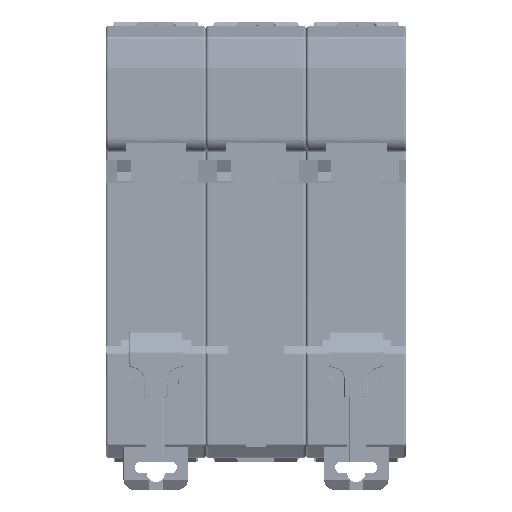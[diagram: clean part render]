
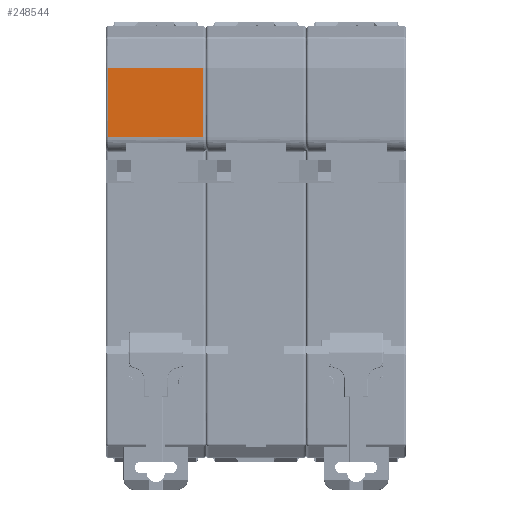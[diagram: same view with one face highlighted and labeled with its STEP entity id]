
A CAD part, top view. The second image highlights one B-rep face of the part: STEP entity #248544.
In plain terms, the highlighted planar face has unit normal (0, 0, 1) as drawn and (0, -1, 0) by its records, which use the part's own axes.
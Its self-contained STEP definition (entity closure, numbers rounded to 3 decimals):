
#499 = PLANE ( 'NONE',  #72183 ) ;
#672 = CARTESIAN_POINT ( 'NONE',  ( 18.5, -51.5, 39.667 ) ) ;
#3271 = CARTESIAN_POINT ( 'NONE',  ( 30.8, -51.5, 36.1 ) ) ;
#10776 = ORIENTED_EDGE ( 'NONE', *, *, #219311, .F. ) ;
#11687 = EDGE_CURVE ( 'NONE', #244808, #219806, #322368, .T. ) ;
#14458 = CARTESIAN_POINT ( 'NONE',  ( 29.75, -51.5, 42.467 ) ) ;
#20364 = VERTEX_POINT ( 'NONE', #320424 ) ;
#26579 = B_SPLINE_CURVE_WITH_KNOTS ( 'NONE', 3,
 ( #288369, #61651, #35407, #262114 ),
 .UNSPECIFIED., .F., .F.,
 ( 4, 4 ),
 ( 0., 1. ),
 .UNSPECIFIED. ) ;
#29135 = ORIENTED_EDGE ( 'NONE', *, *, #140694, .T. ) ;
#32732 = CARTESIAN_POINT ( 'NONE',  ( 18.5, -51.5, 41.5 ) ) ;
#34123 = ORIENTED_EDGE ( 'NONE', *, *, #243445, .F. ) ;
#35407 = CARTESIAN_POINT ( 'NONE',  ( 22.25, -51.5, 41.45 ) ) ;
#35540 = CARTESIAN_POINT ( 'NONE',  ( 29.75, -51.5, 41.45 ) ) ;
#36890 = CARTESIAN_POINT ( 'NONE',  ( 18.5, -51.5, 36.1 ) ) ;
#39045 = CARTESIAN_POINT ( 'NONE',  ( 29.75, -51.5, 43.483 ) ) ;
#40584 = LINE ( 'NONE', #140788, #159124 ) ;
#44746 = CARTESIAN_POINT ( 'NONE',  ( 29.72, -51.5, 44.5 ) ) ;
#48106 = DIRECTION ( 'NONE',  ( 0., 0., -1. ) ) ;
#49581 = CARTESIAN_POINT ( 'NONE',  ( 29.74, -51.5, 44.5 ) ) ;
#61651 = CARTESIAN_POINT ( 'NONE',  ( 26., -51.5, 41.45 ) ) ;
#64054 = EDGE_CURVE ( 'NONE', #183762, #244808, #176515, .T. ) ;
#72183 = AXIS2_PLACEMENT_3D ( 'NONE', #122052, #74357, #48106 ) ;
#74357 = DIRECTION ( 'NONE',  ( 0., -1., 0. ) ) ;
#78525 = CARTESIAN_POINT ( 'NONE',  ( 30.8, -51.5, 52.9 ) ) ;
#89744 = CARTESIAN_POINT ( 'NONE',  ( 18.5, -51.5, 52.9 ) ) ;
#91430 = DIRECTION ( 'NONE',  ( 1., 0., 0. ) ) ;
#97842 = B_SPLINE_CURVE_WITH_KNOTS ( 'NONE', 3,
 ( #316203, #672, #150135, #276618 ),
 .UNSPECIFIED., .F., .F.,
 ( 4, 4 ),
 ( 0., 1. ),
 .UNSPECIFIED. ) ;
#99535 = B_SPLINE_CURVE_WITH_KNOTS ( 'NONE', 3,
 ( #3271, #106625, #252926, #254548 ),
 .UNSPECIFIED., .F., .F.,
 ( 4, 4 ),
 ( 0., 1. ),
 .UNSPECIFIED. ) ;
#102567 = EDGE_LOOP ( 'NONE', ( #127291, #34123, #237991, #121665, #128052, #322203, #29135, #243930, #10776, #185726 ) ) ;
#103723 = CARTESIAN_POINT ( 'NONE',  ( 30.8, -51.5, 36.1 ) ) ;
#106625 = CARTESIAN_POINT ( 'NONE',  ( 26.7, -51.5, 36.1 ) ) ;
#107717 = EDGE_CURVE ( 'NONE', #134013, #313311, #97842, .T. ) ;
#108265 = DIRECTION ( 'NONE',  ( 0., 0., 1. ) ) ;
#121665 = ORIENTED_EDGE ( 'NONE', *, *, #11687, .F. ) ;
#122052 = CARTESIAN_POINT ( 'NONE',  ( 36.4, -51.5, 53.4 ) ) ;
#127291 = ORIENTED_EDGE ( 'NONE', *, *, #136967, .T. ) ;
#128052 = ORIENTED_EDGE ( 'NONE', *, *, #64054, .F. ) ;
#131301 = EDGE_CURVE ( 'NONE', #186112, #183762, #173155, .T. ) ;
#134013 = VERTEX_POINT ( 'NONE', #225876 ) ;
#136967 = EDGE_CURVE ( 'NONE', #227536, #283015, #303639, .T. ) ;
#140694 = EDGE_CURVE ( 'NONE', #186112, #134013, #26579, .T. ) ;
#140788 = CARTESIAN_POINT ( 'NONE',  ( 18.5, -51.5, 41.5 ) ) ;
#150135 = CARTESIAN_POINT ( 'NONE',  ( 18.5, -51.5, 37.883 ) ) ;
#157519 = B_SPLINE_CURVE_WITH_KNOTS ( 'NONE', 3,
 ( #103723, #259748, #304182, #239945 ),
 .UNSPECIFIED., .F., .F.,
 ( 4, 4 ),
 ( 0., 1. ),
 .UNSPECIFIED. ) ;
#159124 = VECTOR ( 'NONE', #91430, 1000. ) ;
#163878 = CARTESIAN_POINT ( 'NONE',  ( 29.75, -51.5, 44.5 ) ) ;
#164689 = CARTESIAN_POINT ( 'NONE',  ( 29.75, -51.5, 44.5 ) ) ;
#173155 = B_SPLINE_CURVE_WITH_KNOTS ( 'NONE', 3,
 ( #237859, #14458, #39045, #163878 ),
 .UNSPECIFIED., .F., .F.,
 ( 4, 4 ),
 ( 0., 1. ),
 .UNSPECIFIED. ) ;
#176515 = B_SPLINE_CURVE_WITH_KNOTS ( 'NONE', 3,
 ( #251648, #49581, #200698, #253246 ),
 .UNSPECIFIED., .F., .F.,
 ( 4, 4 ),
 ( 0., 1. ),
 .UNSPECIFIED. ) ;
#182958 = EDGE_CURVE ( 'NONE', #277063, #227536, #157519, .T. ) ;
#183762 = VERTEX_POINT ( 'NONE', #164689 ) ;
#185726 = ORIENTED_EDGE ( 'NONE', *, *, #182958, .T. ) ;
#186112 = VERTEX_POINT ( 'NONE', #35540 ) ;
#191746 = VECTOR ( 'NONE', #251115, 1000. ) ;
#200698 = CARTESIAN_POINT ( 'NONE',  ( 29.73, -51.5, 44.5 ) ) ;
#219311 = EDGE_CURVE ( 'NONE', #277063, #313311, #99535, .T. ) ;
#219806 = VERTEX_POINT ( 'NONE', #226284 ) ;
#225409 = DIRECTION ( 'NONE',  ( 0., 0., -1. ) ) ;
#225876 = CARTESIAN_POINT ( 'NONE',  ( 18.5, -51.5, 41.45 ) ) ;
#226284 = CARTESIAN_POINT ( 'NONE',  ( 29.72, -51.5, 41.5 ) ) ;
#227536 = VERTEX_POINT ( 'NONE', #255240 ) ;
#228482 = VECTOR ( 'NONE', #108265, 1000. ) ;
#230395 = CARTESIAN_POINT ( 'NONE',  ( 29.72, -51.5, 44.5 ) ) ;
#237859 = CARTESIAN_POINT ( 'NONE',  ( 29.75, -51.5, 41.45 ) ) ;
#237991 = ORIENTED_EDGE ( 'NONE', *, *, #257372, .T. ) ;
#239945 = CARTESIAN_POINT ( 'NONE',  ( 30.8, -51.5, 52.9 ) ) ;
#242392 = VECTOR ( 'NONE', #225409, 1000. ) ;
#243445 = EDGE_CURVE ( 'NONE', #20364, #283015, #254570, .T. ) ;
#243930 = ORIENTED_EDGE ( 'NONE', *, *, #107717, .T. ) ;
#244808 = VERTEX_POINT ( 'NONE', #230395 ) ;
#248544 = ADVANCED_FACE ( 'NONE', ( #297861 ), #499, .T. ) ;
#251115 = DIRECTION ( 'NONE',  ( -1., 0., 0. ) ) ;
#251648 = CARTESIAN_POINT ( 'NONE',  ( 29.75, -51.5, 44.5 ) ) ;
#252926 = CARTESIAN_POINT ( 'NONE',  ( 22.6, -51.5, 36.1 ) ) ;
#253246 = CARTESIAN_POINT ( 'NONE',  ( 29.72, -51.5, 44.5 ) ) ;
#254548 = CARTESIAN_POINT ( 'NONE',  ( 18.5, -51.5, 36.1 ) ) ;
#254570 = LINE ( 'NONE', #32732, #228482 ) ;
#255240 = CARTESIAN_POINT ( 'NONE',  ( 30.8, -51.5, 52.9 ) ) ;
#257372 = EDGE_CURVE ( 'NONE', #20364, #219806, #40584, .T. ) ;
#259748 = CARTESIAN_POINT ( 'NONE',  ( 30.8, -51.5, 41.7 ) ) ;
#262114 = CARTESIAN_POINT ( 'NONE',  ( 18.5, -51.5, 41.45 ) ) ;
#269954 = CARTESIAN_POINT ( 'NONE',  ( 30.8, -51.5, 36.1 ) ) ;
#276618 = CARTESIAN_POINT ( 'NONE',  ( 18.5, -51.5, 36.1 ) ) ;
#277063 = VERTEX_POINT ( 'NONE', #269954 ) ;
#283015 = VERTEX_POINT ( 'NONE', #89744 ) ;
#288369 = CARTESIAN_POINT ( 'NONE',  ( 29.75, -51.5, 41.45 ) ) ;
#297861 = FACE_OUTER_BOUND ( 'NONE', #102567, .T. ) ;
#303639 = LINE ( 'NONE', #78525, #191746 ) ;
#304182 = CARTESIAN_POINT ( 'NONE',  ( 30.8, -51.5, 47.3 ) ) ;
#313311 = VERTEX_POINT ( 'NONE', #36890 ) ;
#316203 = CARTESIAN_POINT ( 'NONE',  ( 18.5, -51.5, 41.45 ) ) ;
#320424 = CARTESIAN_POINT ( 'NONE',  ( 18.5, -51.5, 41.5 ) ) ;
#322203 = ORIENTED_EDGE ( 'NONE', *, *, #131301, .F. ) ;
#322368 = LINE ( 'NONE', #44746, #242392 ) ;
